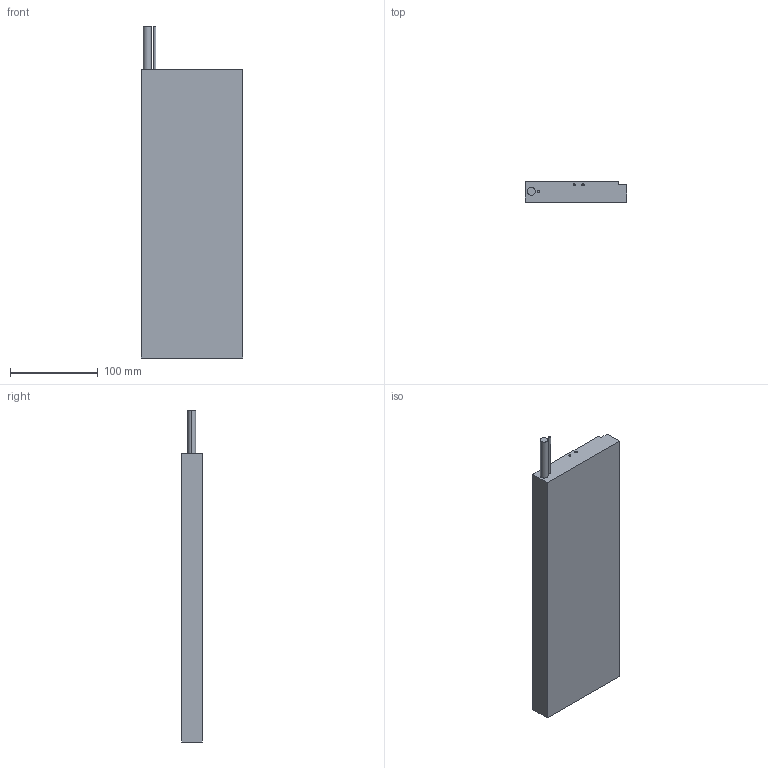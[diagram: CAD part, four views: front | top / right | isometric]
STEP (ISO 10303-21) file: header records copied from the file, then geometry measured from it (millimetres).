
FILE_DESCRIPTION (( 'STEP AP203' ), '1' );
FILE_NAME ('LMSA33.STEP', '2016-05-13T06:00:30', ( '' ), ( '' ), 'SwSTEP 2.0', 'SolidWorks 2015', '' );
FILE_SCHEMA (( 'CONFIG_CONTROL_DESIGN' ));
Length unit declared in the file: millimetre
Products named in the file (1): LMSA33
Bounding box: 116 x 23.7 x 378 mm (x, y, z)
Volume: 890005.2 mm3; surface area: 100147.1 mm2
Topology: 1 solids, 1 shells, 132 faces, 326 edges, 169 vertices
Faces by surface type: cylinder 62, cone 58, plane 12
Entity records: 3541 total; most frequent: DIRECTION 658, CARTESIAN_POINT 570, ORIENTED_EDGE 536, EDGE_CURVE 268, AXIS2_PLACEMENT_3D 257, VERTEX_POINT 169, EDGE_LOOP 163, VECTOR 144
